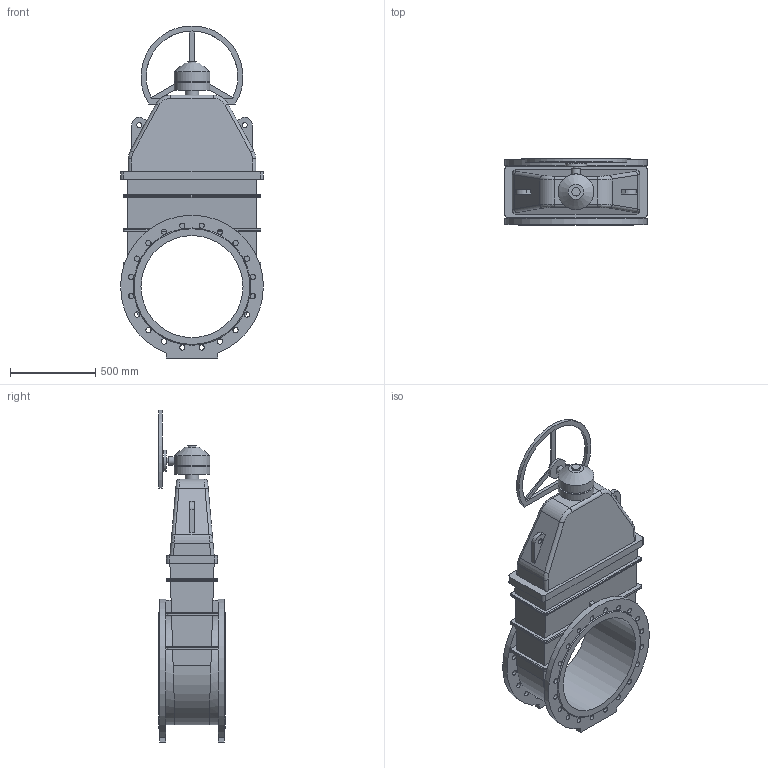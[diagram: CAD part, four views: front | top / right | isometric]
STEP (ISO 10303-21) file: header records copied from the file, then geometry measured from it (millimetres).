
FILE_DESCRIPTION(('STEP AP203'), '1');
FILE_NAME('Çàäâèæêà 47GV DN600 PN10_L390 + ðåäóêòîð ñ ìàõîâèêîì', '', ('UNSPECIFIED'), ('UNSPECIFIED'), 'ASCON STEP Converter 1.6', 'ASCON Math Kernel', '');
FILE_SCHEMA(('CONFIG_CONTROL_DESIGN'));
Length unit declared in the file: millimetre
Bounding box: 840 x 390 x 1952.91 mm (x, y, z)
Volume: 197123072.5 mm3; surface area: 5194817.5 mm2
Topology: 1 solids, 1 shells, 264 faces, 659 edges, 422 vertices
Faces by surface type: cylinder 121, plane 116, bspline 24, cone 3
Full cylindrical faces by diameter (mm): 17.5 x4, 20 x1, 22 x4, 30 x3, 31 x40, 50 x2, 60 x1, 80 x1, 125 x1, 190 x1, 210 x2, 600 x1
Entity records: 11763 total; most frequent: CARTESIAN_POINT 3506, DIRECTION 1206, ORIENTED_EDGE 1190, EDGE_CURVE 595, AXIS2_PLACEMENT_3D 452, EDGE_LOOP 446, VERTEX_POINT 422, FACE_BOUND 321
